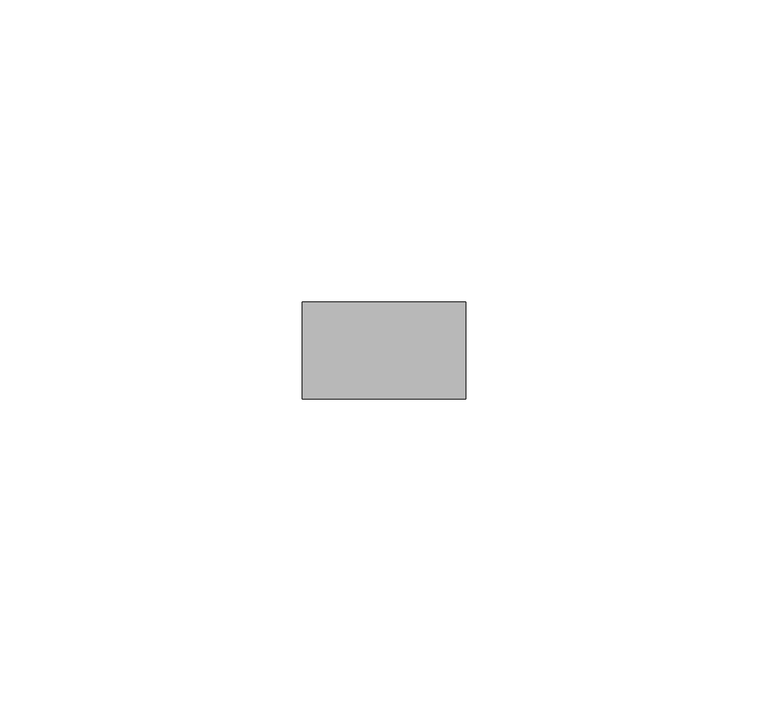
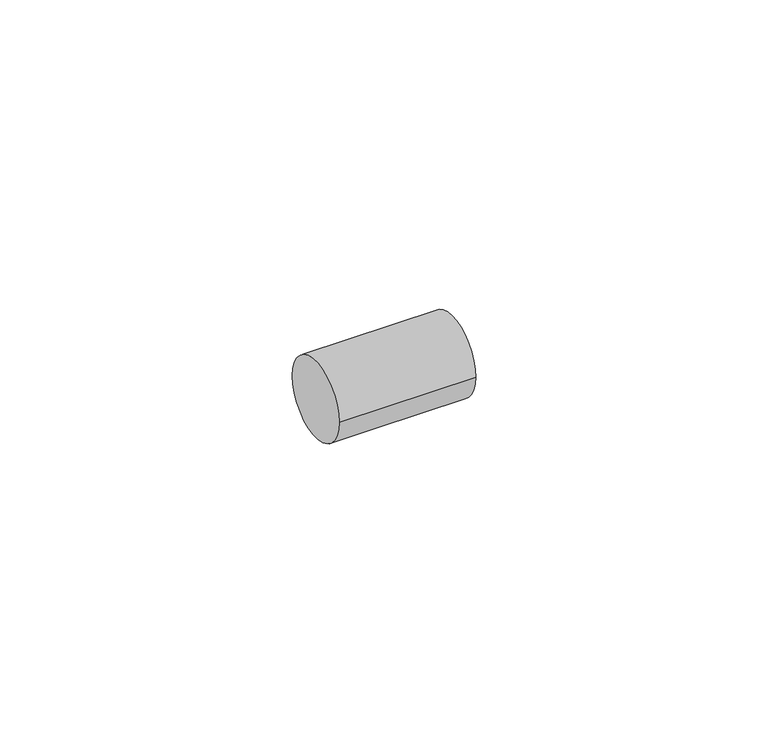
"""IFC4 building model written with IfcOpenShell, lengths in millimetres: pipe fitting geometry, 01051005 : Uniao Simples."""

from ifc_helpers import new_model, si_unit, point, frame, origin, origin_2d, place, context, project, spatial, circle_curve, trimmed, segment, composite_curve, outline, extrude, source, transform, mapped, element, save


def pipe_fitting_3938fee2(model_context):
    return source(origin(), model_context, "Body", "SweptSolid", [
        extrude(outline(composite_curve([segment(trimmed(circle_curve(origin_2d(), 8.0), [point((-8.0, 0.0))], [point((8.0, 0.0))], False, "CARTESIAN"), True, "CONTINUOUS"), segment(trimmed(circle_curve(origin_2d(), 8.0), [point((8.0, 0.0))], [point((-8.0, 0.0))], False, "CARTESIAN"), True, "CONTINUOUS")], self_intersect=False)), frame((-13.5, 0.0, 0.0), z_axis=(1.0, 0.0, 0.0), x_axis=(0.0, 1.0, 0.0)), (0.0, 0.0, 1.0), 27.0),
    ])


if __name__ == "__main__":
    model = new_model("IFC4")
    model_context = context("Model", 3, world=origin())
    ifc_project = project(units=[si_unit("LENGTHUNIT", "METRE", prefix="MILLI")], contexts=[model_context])
    site = spatial("IfcSite", under=ifc_project)
    building = spatial("IfcBuilding", under=site)
    placement = place(None, origin())
    pipe_fitting_shape = pipe_fitting_3938fee2(model_context)
    element("IfcPipeFitting", 1, ObjectType="01051005 : Uniao Simples", at=placement, inside=building, context=model_context, shape_type="MappedRepresentation", body=[
        mapped(pipe_fitting_shape, transform((0.0, 0.0, 0.0), x_axis=(1.0, 0.0, 0.0), y_axis=(0.0, 1.0, 0.0), z_axis=(0.0, 0.0, 1.0))),
    ])
    save(model, "model.ifc")
